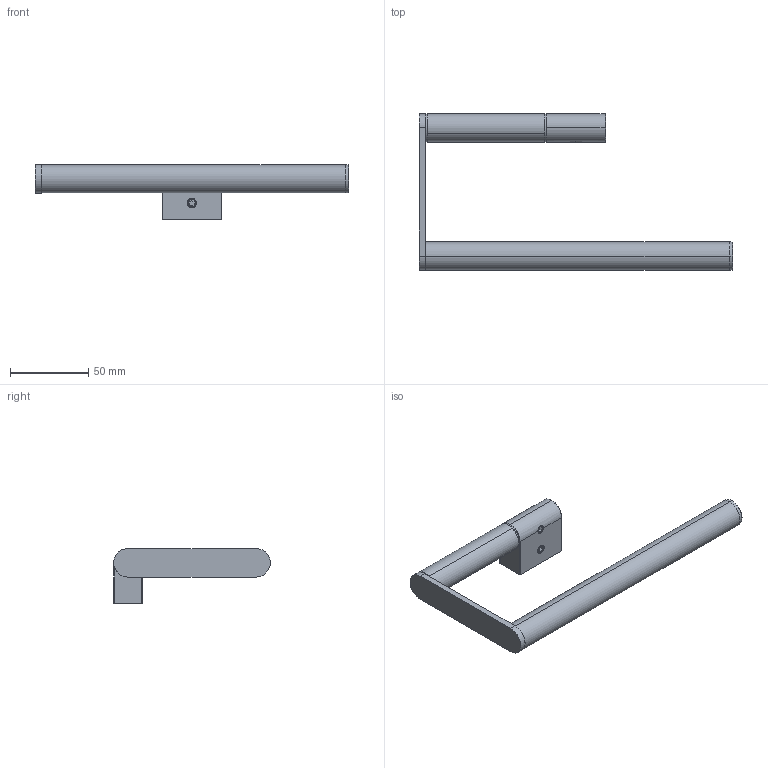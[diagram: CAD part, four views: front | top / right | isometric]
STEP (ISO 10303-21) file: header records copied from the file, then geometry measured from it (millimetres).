
FILE_DESCRIPTION (( 'STEP AP203' ), '1' );
FILE_NAME ('28038A-00-00.STEP', '2022-07-07T06:12:03', ( 'Windows User' ), ( 'P R C' ), 'SwSTEP 2.0', 'SolidWorks 2015', '' );
FILE_SCHEMA (( 'CONFIG_CONTROL_DESIGN' ));
Length unit declared in the file: millimetre
Products named in the file (1): 28038A-00-00
Bounding box: 200.3 x 100 x 35.1 mm (x, y, z)
Surface area: 27749.2 mm2 (no closed solid volume)
Topology: 0 solids, 10 shells, 132 faces, 424 edges, 302 vertices
Faces by surface type: cylinder 46, plane 46, bspline 24, cone 10, torus 4, sphere 2
Entity records: 4934 total; most frequent: CARTESIAN_POINT 1379, DIRECTION 721, ORIENTED_EDGE 673, EDGE_CURVE 424, VERTEX_POINT 302, AXIS2_PLACEMENT_3D 264, VECTOR 193, LINE 193
